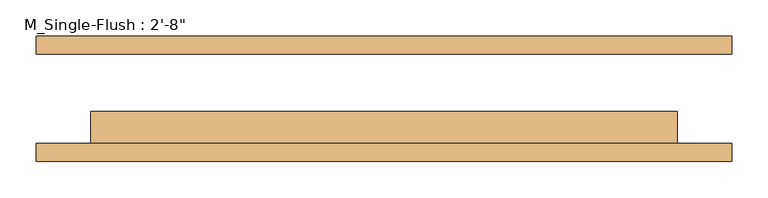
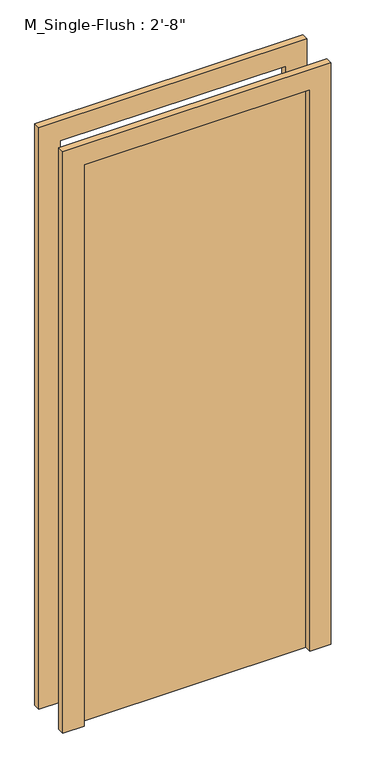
"""IFC4 building model written with IfcOpenShell, lengths in millimetres: door geometry."""

from ifc_helpers import new_model, si_unit, frame, origin, origin_with_axes, place, context, project, spatial, polyline, outline, extrude, source, transform, mapped, element, save


def door_9ecb6357(model_context):
    return source(origin(), model_context, "Body", "SweptSolid", [
        extrude(outline(polyline([(2209.8, -482.6), (0.0, -482.6), (0.0, -406.4), (2133.6, -406.4), (2133.6, 406.4), (0.0, 406.4), (0.0, 482.6), (2209.8, 482.6), (2209.8, -482.6)])), frame((0.0, -87.3125, 0.0), z_axis=(0.0, 1.0, 0.0), x_axis=(0.0, 0.0, 1.0)), (0.0, 0.0, 1.0), 25.4),
        extrude(outline(polyline([(2209.8, 482.6), (2209.8, -482.6), (0.0, -482.6), (0.0, -406.4), (2133.6, -406.4), (2133.6, 406.4), (0.0, 406.4), (0.0, 482.6), (2209.8, 482.6)])), frame((0.0, 61.9125, 0.0), z_axis=(0.0, 1.0, 0.0), x_axis=(0.0, 0.0, 1.0)), (0.0, 0.0, 1.0), 25.4),
        extrude(outline(polyline([(406.4, -17.4625), (406.4, -61.9125), (-406.4, -61.9125), (-406.4, -17.4625), (406.4, -17.4625)])), origin_with_axes(), (0.0, 0.0, 1.0), 2133.6),
    ])


if __name__ == "__main__":
    model = new_model("IFC4")
    model_context = context("Model", 3, world=origin())
    ifc_project = project(units=[si_unit("LENGTHUNIT", "METRE", prefix="MILLI")], contexts=[model_context])
    site = spatial("IfcSite", under=ifc_project)
    building = spatial("IfcBuilding", under=site)
    placement = place(None, origin())
    door_shape = door_9ecb6357(model_context)
    element("IfcDoor", 1, ObjectType="M_Single-Flush : 2'-8\"", at=placement, inside=building, context=model_context, shape_type="MappedRepresentation", body=[
        mapped(door_shape, transform((0.0, 0.0, 0.0), x_axis=(1.0, 0.0, 0.0), y_axis=(0.0, 1.0, 0.0), z_axis=(0.0, 0.0, 1.0))),
    ])
    save(model, "model.ifc")
